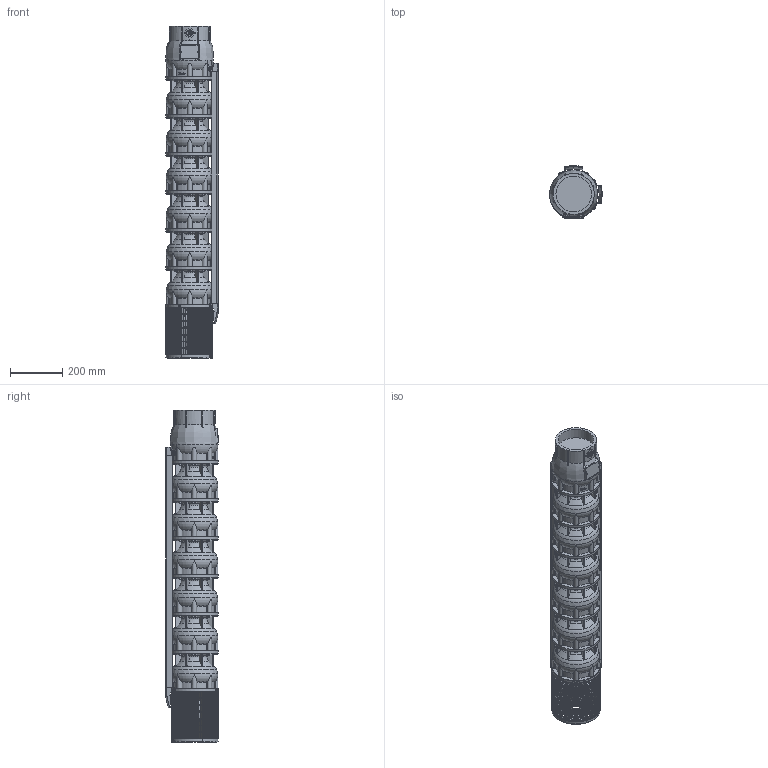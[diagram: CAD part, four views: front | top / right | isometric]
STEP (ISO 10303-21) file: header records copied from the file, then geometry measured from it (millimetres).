
FILE_DESCRIPTION(/* description */ ('Unknown'),/* implementation_level */ '2;1');
FILE_NAME(/* name */ 'VSI134-6_WR_M6-50_SLE',/* time_stamp */ '2023-09-14T15:04:32+02:00',/* author */ ('Unknown'),/* organization */ ('Unknown'),/* preprocessor_version */ 'ST-DEVELOPER v18.102',/* originating_system */ 'Solid Edge',/* authorisation */ 'Unknown');
FILE_SCHEMA (('AUTOMOTIVE_DESIGN {1 0 10303 214 3 1 1}'));
Products named in the file (11): VSI134-6_WR_M6-50_SLE; VSI134_testata; VSI134_diffusore; VSI134_supporto_8×6; VSI134_filtro_A; VSI134_filtro_B; VSI134_terminale_top_copricavo_basso; VSI134_terminale_bottom_copricavo_basso; LOW 134-6; M5X8_UNI7687; VSI134_giunto_8×6
Assembly tree (30 placements, depth 2):
  VSI134-6_WR_M6-50_SLE
    VSI134_testata
    VSI134_diffusore  x6
    VSI134_supporto_8×6
    VSI134_filtro_A
    VSI134_filtro_B
    VSI134_terminale_top_copricavo_basso  x2
    VSI134_terminale_bottom_copricavo_basso  x2
    LOW 134-6  x2
    M5X8_UNI7687  x13
    VSI134_giunto_8×6
Bounding box: 201.57 x 202.09 x 1267 mm (x, y, z)
Volume: 22063650 mm3; surface area: 1963201.4 mm2
Topology: 69 solids, 71 shells, 3630 faces, 10222 edges, 6814 vertices
Faces by surface type: plane 2712, cylinder 495, torus 315, cone 62, bspline 31, sphere 15
Full cylindrical faces by diameter (mm): 2.4 x2, 3 x2, 4.2 x16, 5 x13, 5.5 x8, 15 x4, 26 x1, 44 x1, 59 x1, 74 x1, 76.2 x1, 98 x1, 135.472 x1, 157 x1, 182 x7
Entity records: 83789 total; most frequent: CARTESIAN_POINT 18050, ORIENTED_EDGE 13738, DIRECTION 13182, EDGE_CURVE 6869, VERTEX_POINT 4627, AXIS2_PLACEMENT_3D 4498, LINE 4186, VECTOR 4186
